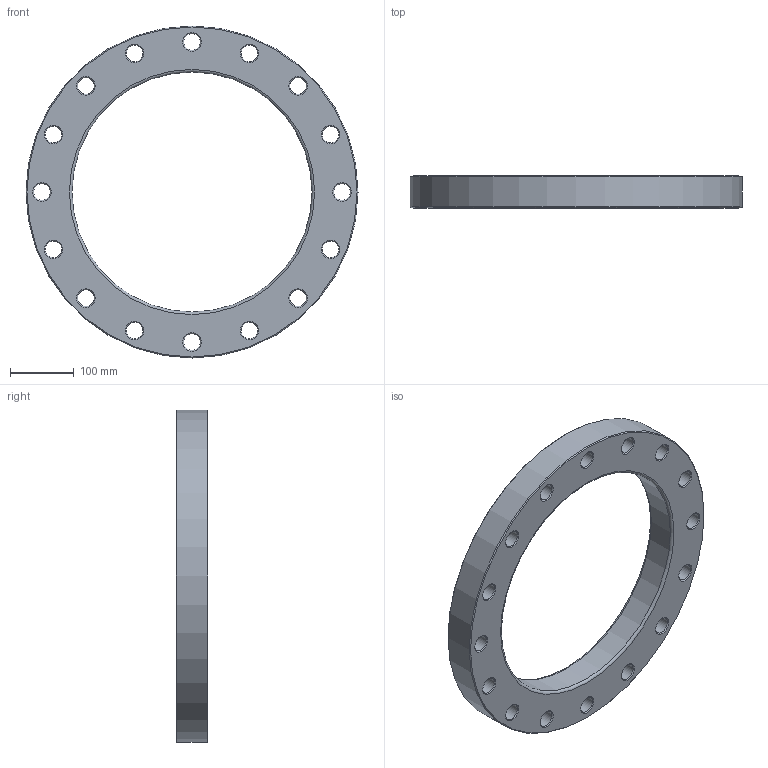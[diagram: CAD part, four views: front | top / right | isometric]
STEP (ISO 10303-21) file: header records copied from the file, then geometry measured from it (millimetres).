
FILE_DESCRIPTION(/* description */ ('Unknown'),/* implementation_level */ '2;1');
FILE_NAME(/* name */ 'FR355C',/* time_stamp */ '2022-07-05T17:16:31+02:00',/* author */ ('Unknown'),/* organization */ ('Unknown'),/* preprocessor_version */ 'ST-DEVELOPER v18.102',/* originating_system */ 'Solid Edge',/* authorisation */ 'Unknown');
FILE_SCHEMA (('AUTOMOTIVE_DESIGN {1 0 10303 214 3 1 1}'));
Length unit declared in the file: millimetre
Products named in the file (1): FR355C
Bounding box: 520 x 50 x 520 mm (x, y, z)
Volume: 4627144.7 mm3; surface area: 382647.7 mm2
Topology: 1 solids, 1 shells, 56 faces, 174 edges, 120 vertices
Faces by surface type: cone 34, cylinder 18, plane 2, torus 2
Full cylindrical faces by diameter (mm): 26 x16, 376 x1, 520 x1
Entity records: 1382 total; most frequent: DIRECTION 258, CARTESIAN_POINT 201, ORIENTED_EDGE 144, EDGE_LOOP 144, FACE_BOUND 144, AXIS2_PLACEMENT_3D 129, EDGE_CURVE 72, VERTEX_POINT 72
